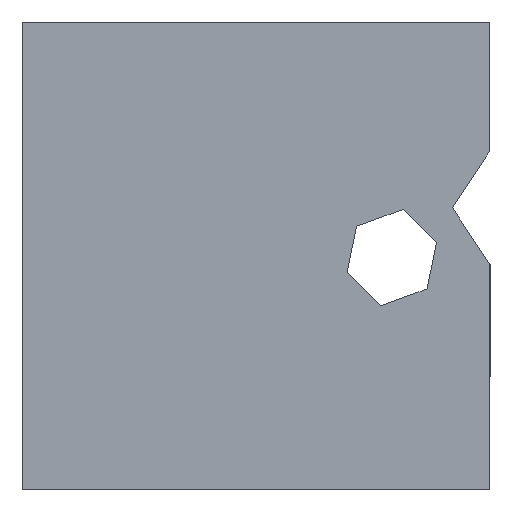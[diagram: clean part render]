
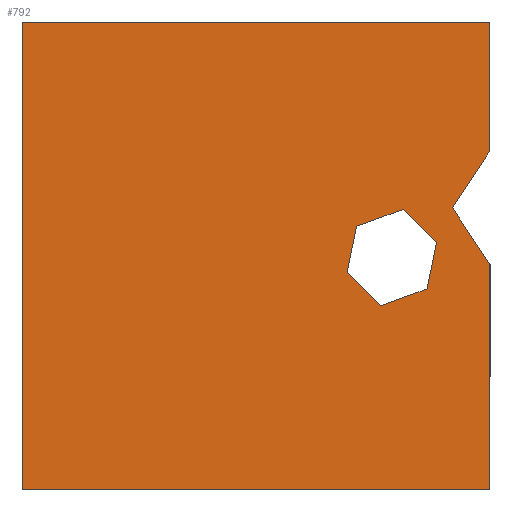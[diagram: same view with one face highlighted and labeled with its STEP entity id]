
A CAD part, left-side view. The second image highlights one B-rep face of the part: STEP entity #792.
In plain terms, the highlighted planar face has unit normal (-1, 0, 0).
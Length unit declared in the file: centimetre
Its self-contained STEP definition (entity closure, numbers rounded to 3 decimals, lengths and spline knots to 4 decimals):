
#4 = LINE ( 'NONE', #316, #11 ) ;
#11 = VECTOR ( 'NONE', #709, 100. ) ;
#13 = VECTOR ( 'NONE', #992, 100. ) ;
#15 = EDGE_CURVE ( 'NONE', #101, #752, #321, .T. ) ;
#22 = EDGE_CURVE ( 'NONE', #964, #910, #538, .T. ) ;
#34 = VERTEX_POINT ( 'NONE', #749 ) ;
#56 = DIRECTION ( 'NONE',  ( 0., 0.707, 0.707 ) ) ;
#60 = CARTESIAN_POINT ( 'NONE',  ( 0., 0., 481.3466 ) ) ;
#71 = VERTEX_POINT ( 'NONE', #423 ) ;
#75 = ORIENTED_EDGE ( 'NONE', *, *, #123, .F. ) ;
#79 = DIRECTION ( 'NONE',  ( 1., 0., 0. ) ) ;
#101 = VERTEX_POINT ( 'NONE', #759 ) ;
#107 = DIRECTION ( 'NONE',  ( 0., -0.707, -0.707 ) ) ;
#112 = CARTESIAN_POINT ( 'NONE',  ( 0., 0., 1000. ) ) ;
#123 = EDGE_CURVE ( 'NONE', #809, #317, #205, .T. ) ;
#155 = FACE_OUTER_BOUND ( 'NONE', #650, .T. ) ;
#162 = LINE ( 'NONE', #324, #511 ) ;
#166 = CARTESIAN_POINT ( 'NONE',  ( 0., 234.2656, 393.4914 ) ) ;
#180 = DIRECTION ( 'NONE',  ( 0., 0., -1. ) ) ;
#182 = LINE ( 'NONE', #649, #494 ) ;
#205 = LINE ( 'NONE', #753, #313 ) ;
#211 = VECTOR ( 'NONE', #860, 100. ) ;
#220 = LINE ( 'NONE', #770, #356 ) ;
#238 = VERTEX_POINT ( 'NONE', #535 ) ;
#251 = ORIENTED_EDGE ( 'NONE', *, *, #1020, .T. ) ;
#264 = ORIENTED_EDGE ( 'NONE', *, *, #724, .F. ) ;
#271 = DIRECTION ( 'NONE',  ( 0., -0.94, 0.341 ) ) ;
#286 = CARTESIAN_POINT ( 'NONE',  ( 0., 80.0116, 602.923 ) ) ;
#289 = ORIENTED_EDGE ( 'NONE', *, *, #1029, .T. ) ;
#290 = ORIENTED_EDGE ( 'NONE', *, *, #902, .F. ) ;
#305 = VERTEX_POINT ( 'NONE', #166 ) ;
#313 = VECTOR ( 'NONE', #588, 100. ) ;
#316 = CARTESIAN_POINT ( 'NONE',  ( 0., 185.3607, 599.6798 ) ) ;
#317 = VERTEX_POINT ( 'NONE', #561 ) ;
#321 = LINE ( 'NONE', #695, #956 ) ;
#324 = CARTESIAN_POINT ( 'NONE',  ( 0., 1000., 1000. ) ) ;
#356 = VECTOR ( 'NONE', #56, 100. ) ;
#411 = VECTOR ( 'NONE', #271, 100. ) ;
#423 = CARTESIAN_POINT ( 'NONE',  ( 0., 114.2229, 528.542 ) ) ;
#437 = VERTEX_POINT ( 'NONE', #863 ) ;
#442 = CARTESIAN_POINT ( 'NONE',  ( 0., 80.0116, 602.923 ) ) ;
#459 = DIRECTION ( 'NONE',  ( 0., 0., -1. ) ) ;
#483 = CARTESIAN_POINT ( 'NONE',  ( 0., 0., 0. ) ) ;
#494 = VECTOR ( 'NONE', #107, 100. ) ;
#511 = VECTOR ( 'NONE', #788, 100. ) ;
#520 = LINE ( 'NONE', #837, #829 ) ;
#533 = CARTESIAN_POINT ( 'NONE',  ( 0., 134.3429, 429.7802 ) ) ;
#535 = CARTESIAN_POINT ( 'NONE',  ( 0., 134.3429, 429.7802 ) ) ;
#538 = LINE ( 'NONE', #858, #796 ) ;
#554 = FACE_BOUND ( 'NONE', #923, .T. ) ;
#561 = CARTESIAN_POINT ( 'NONE',  ( 0., 0., 724.4995 ) ) ;
#565 = CARTESIAN_POINT ( 'NONE',  ( 0., 0., 1000. ) ) ;
#579 = EDGE_CURVE ( 'NONE', #238, #71, #681, .T. ) ;
#583 = LINE ( 'NONE', #112, #905 ) ;
#588 = DIRECTION ( 'NONE',  ( 0., 0., -1. ) ) ;
#597 = DIRECTION ( 'NONE',  ( 0., 0.55, 0.835 ) ) ;
#598 = EDGE_CURVE ( 'NONE', #71, #437, #220, .T. ) ;
#605 = AXIS2_PLACEMENT_3D ( 'NONE', #876, #79, #802 ) ;
#638 = EDGE_CURVE ( 'NONE', #34, #654, #690, .T. ) ;
#640 = PLANE ( 'NONE',  #605 ) ;
#649 = CARTESIAN_POINT ( 'NONE',  ( 0., 305.4034, 464.6292 ) ) ;
#650 = EDGE_LOOP ( 'NONE', ( #739, #251, #75, #264, #999, #289, #729 ) ) ;
#654 = VERTEX_POINT ( 'NONE', #442 ) ;
#662 = LINE ( 'NONE', #984, #411 ) ;
#669 = LINE ( 'NONE', #286, #13 ) ;
#681 = LINE ( 'NONE', #533, #211 ) ;
#690 = LINE ( 'NONE', #60, #1033 ) ;
#695 = CARTESIAN_POINT ( 'NONE',  ( 0., 285.2833, 563.391 ) ) ;
#709 = DIRECTION ( 'NONE',  ( 0., 0.94, -0.341 ) ) ;
#713 = EDGE_CURVE ( 'NONE', #437, #101, #4, .T. ) ;
#724 = EDGE_CURVE ( 'NONE', #964, #809, #162, .T. ) ;
#729 = ORIENTED_EDGE ( 'NONE', *, *, #871, .F. ) ;
#739 = ORIENTED_EDGE ( 'NONE', *, *, #638, .T. ) ;
#749 = CARTESIAN_POINT ( 'NONE',  ( 0., 0., 481.3466 ) ) ;
#752 = VERTEX_POINT ( 'NONE', #870 ) ;
#753 = CARTESIAN_POINT ( 'NONE',  ( 0., 0., 1000. ) ) ;
#759 = CARTESIAN_POINT ( 'NONE',  ( 0., 285.2833, 563.391 ) ) ;
#766 = VERTEX_POINT ( 'NONE', #483 ) ;
#767 = DIRECTION ( 'NONE',  ( 0., -1., 0. ) ) ;
#770 = CARTESIAN_POINT ( 'NONE',  ( 0., 114.2229, 528.542 ) ) ;
#788 = DIRECTION ( 'NONE',  ( 0., -1., 0. ) ) ;
#792 = ADVANCED_FACE ( 'NONE', ( #554, #155 ), #640, .F. ) ;
#796 = VECTOR ( 'NONE', #459, 100. ) ;
#802 = DIRECTION ( 'NONE',  ( 0., 0., -1. ) ) ;
#809 = VERTEX_POINT ( 'NONE', #565 ) ;
#829 = VECTOR ( 'NONE', #767, 100. ) ;
#837 = CARTESIAN_POINT ( 'NONE',  ( 0., 1000., 0. ) ) ;
#858 = CARTESIAN_POINT ( 'NONE',  ( 0., 1000., 1000. ) ) ;
#860 = DIRECTION ( 'NONE',  ( 0., -0.2, 0.98 ) ) ;
#863 = CARTESIAN_POINT ( 'NONE',  ( 0., 185.3607, 599.6798 ) ) ;
#870 = CARTESIAN_POINT ( 'NONE',  ( 0., 305.4034, 464.6292 ) ) ;
#871 = EDGE_CURVE ( 'NONE', #34, #766, #583, .T. ) ;
#876 = CARTESIAN_POINT ( 'NONE',  ( 0., 1000., 1000. ) ) ;
#887 = ORIENTED_EDGE ( 'NONE', *, *, #598, .F. ) ;
#901 = CARTESIAN_POINT ( 'NONE',  ( 0., 1000., 1000. ) ) ;
#902 = EDGE_CURVE ( 'NONE', #752, #305, #182, .T. ) ;
#905 = VECTOR ( 'NONE', #180, 100. ) ;
#910 = VERTEX_POINT ( 'NONE', #980 ) ;
#923 = EDGE_LOOP ( 'NONE', ( #990, #983, #887, #1027, #960, #290 ) ) ;
#956 = VECTOR ( 'NONE', #1015, 100. ) ;
#960 = ORIENTED_EDGE ( 'NONE', *, *, #968, .F. ) ;
#964 = VERTEX_POINT ( 'NONE', #901 ) ;
#968 = EDGE_CURVE ( 'NONE', #305, #238, #662, .T. ) ;
#980 = CARTESIAN_POINT ( 'NONE',  ( 0., 1000., 0. ) ) ;
#983 = ORIENTED_EDGE ( 'NONE', *, *, #713, .F. ) ;
#984 = CARTESIAN_POINT ( 'NONE',  ( 0., 234.2656, 393.4914 ) ) ;
#990 = ORIENTED_EDGE ( 'NONE', *, *, #15, .F. ) ;
#992 = DIRECTION ( 'NONE',  ( 0., -0.55, 0.835 ) ) ;
#999 = ORIENTED_EDGE ( 'NONE', *, *, #22, .T. ) ;
#1015 = DIRECTION ( 'NONE',  ( 0., 0.2, -0.98 ) ) ;
#1020 = EDGE_CURVE ( 'NONE', #654, #317, #669, .T. ) ;
#1027 = ORIENTED_EDGE ( 'NONE', *, *, #579, .F. ) ;
#1029 = EDGE_CURVE ( 'NONE', #910, #766, #520, .T. ) ;
#1033 = VECTOR ( 'NONE', #597, 100. ) ;
